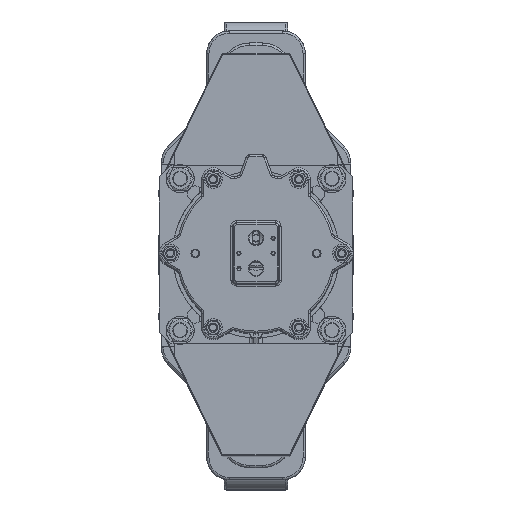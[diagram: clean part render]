
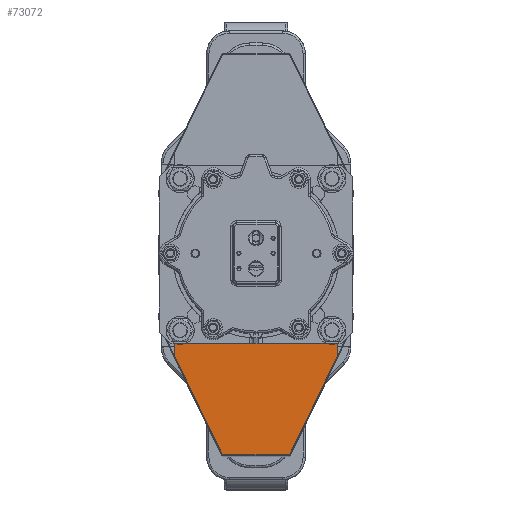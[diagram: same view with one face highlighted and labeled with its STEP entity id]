
A CAD part, top view. The second image highlights one B-rep face of the part: STEP entity #73072.
In plain terms, the highlighted planar face has unit normal (0, 0, 1).
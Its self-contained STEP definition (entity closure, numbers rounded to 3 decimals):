
#2981=PLANE('',#80043);
#7415=FACE_OUTER_BOUND('',#12276,.T.);
#12276=EDGE_LOOP('',(#59487,#59488,#59489,#59490,#59491,#59492,#59493,#59494));
#23683=LINE('',#131836,#28237);
#23687=LINE('',#131851,#28241);
#23688=LINE('',#131853,#28242);
#23689=LINE('',#131855,#28243);
#23690=LINE('',#131857,#28244);
#23691=LINE('',#131859,#28245);
#23692=LINE('',#131861,#28246);
#23693=LINE('',#131862,#28247);
#28237=VECTOR('',#96727,10.);
#28241=VECTOR('',#96747,10.);
#28242=VECTOR('',#96748,10.);
#28243=VECTOR('',#96749,10.);
#28244=VECTOR('',#96750,10.);
#28245=VECTOR('',#96751,10.);
#28246=VECTOR('',#96752,10.);
#28247=VECTOR('',#96753,10.);
#34081=VERTEX_POINT('',#131834);
#34082=VERTEX_POINT('',#131835);
#34085=VERTEX_POINT('',#131850);
#34086=VERTEX_POINT('',#131852);
#34087=VERTEX_POINT('',#131854);
#34088=VERTEX_POINT('',#131856);
#34089=VERTEX_POINT('',#131858);
#34090=VERTEX_POINT('',#131860);
#43110=EDGE_CURVE('',#34081,#34082,#23683,.T.);
#43118=EDGE_CURVE('',#34085,#34081,#23687,.T.);
#43119=EDGE_CURVE('',#34086,#34085,#23688,.T.);
#43120=EDGE_CURVE('',#34087,#34086,#23689,.T.);
#43121=EDGE_CURVE('',#34088,#34087,#23690,.T.);
#43122=EDGE_CURVE('',#34089,#34088,#23691,.T.);
#43123=EDGE_CURVE('',#34090,#34089,#23692,.T.);
#43124=EDGE_CURVE('',#34082,#34090,#23693,.T.);
#59487=ORIENTED_EDGE('',*,*,#43118,.F.);
#59488=ORIENTED_EDGE('',*,*,#43119,.F.);
#59489=ORIENTED_EDGE('',*,*,#43120,.F.);
#59490=ORIENTED_EDGE('',*,*,#43121,.F.);
#59491=ORIENTED_EDGE('',*,*,#43122,.F.);
#59492=ORIENTED_EDGE('',*,*,#43123,.F.);
#59493=ORIENTED_EDGE('',*,*,#43124,.F.);
#59494=ORIENTED_EDGE('',*,*,#43110,.F.);
#73072=ADVANCED_FACE('',(#7415),#2981,.F.);
#80043=AXIS2_PLACEMENT_3D('',#131849,#96745,#96746);
#96727=DIRECTION('',(-1.,0.,0.));
#96745=DIRECTION('center_axis',(0.,0.,
-1.));
#96746=DIRECTION('ref_axis',(0.,-1.,0.));
#96747=DIRECTION('',(-1.,0.,0.));
#96748=DIRECTION('',(-0.437,-0.9,0.));
#96749=DIRECTION('',(0.,-1.,0.));
#96750=DIRECTION('',(1.,0.,0.));
#96751=DIRECTION('',(0.,1.,0.));
#96752=DIRECTION('',(-0.437,0.9,0.));
#96753=DIRECTION('',(-1.,0.,0.));
#131834=CARTESIAN_POINT('',(43.562,-264.113,1112.2));
#131835=CARTESIAN_POINT('',(-43.562,-264.113,1112.2));
#131836=CARTESIAN_POINT('',(-43.562,-264.113,1112.2));
#131849=CARTESIAN_POINT('Origin',(0.,-175.892,
1112.2));
#131850=CARTESIAN_POINT('',(44.244,-264.113,1112.2));
#131851=CARTESIAN_POINT('',(-44.244,-264.113,1112.2));
#131852=CARTESIAN_POINT('',(108.,-132.813,1112.2));
#131853=CARTESIAN_POINT('',(44.244,-264.113,1112.2));
#131854=CARTESIAN_POINT('',(108.,-116.813,1112.2));
#131855=CARTESIAN_POINT('',(108.,-132.813,1112.2));
#131856=CARTESIAN_POINT('',(-108.,-116.813,1112.2));
#131857=CARTESIAN_POINT('',(108.,-116.813,1112.2));
#131858=CARTESIAN_POINT('',(-108.,-132.813,1112.2));
#131859=CARTESIAN_POINT('',(-108.,-116.813,1112.2));
#131860=CARTESIAN_POINT('',(-44.244,-264.113,1112.2));
#131861=CARTESIAN_POINT('',(-108.,-132.813,1112.2));
#131862=CARTESIAN_POINT('',(-44.244,-264.113,1112.2));
